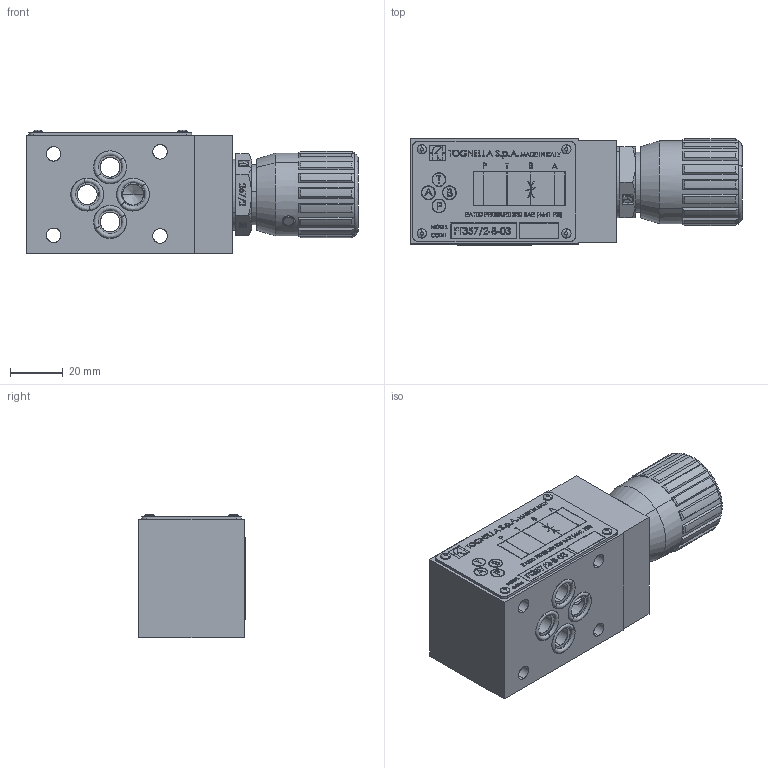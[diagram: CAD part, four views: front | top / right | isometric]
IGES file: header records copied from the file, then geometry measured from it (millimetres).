
Start section: SolidWorks IGES file using analytic representation for surfaces
Global section: file name: C:\Users\user\Desktop\FT357-2\357-2-B\FT357-2-B-03.IGS; native system: SolidWorks 2014; preprocessor: SolidWorks 2014; author: user; date: 140616.160033; units: millimetre
Bounding box: 126.3 x 40.38 x 46.96 mm (x, y, z)
Surface area: 50346.8 mm2 (no closed solid volume)
Topology: 0 solids, 0 shells, 1970 faces, 21852 edges, 21840 vertices
Faces by surface type: bspline 1651, revolution 319
